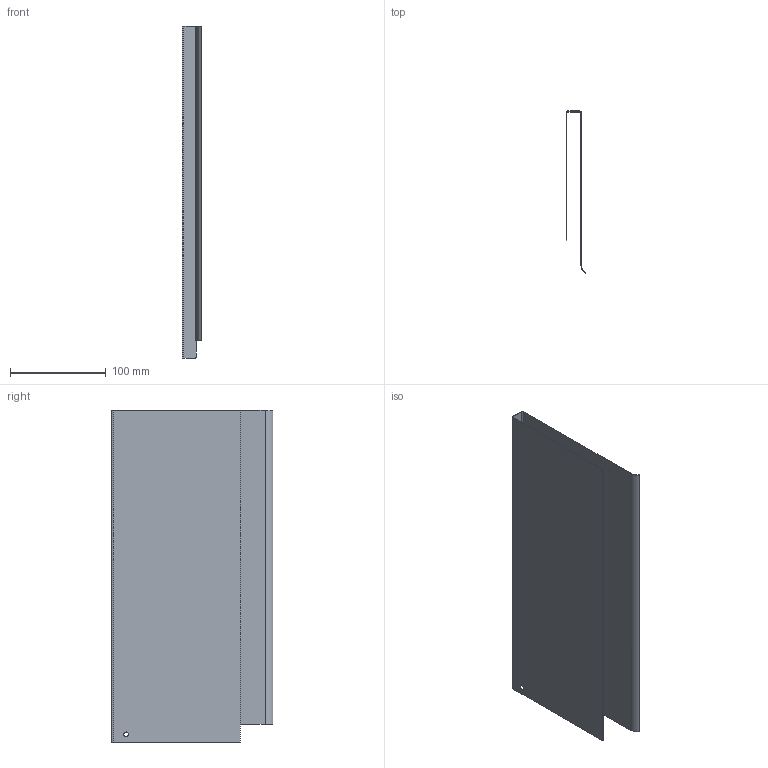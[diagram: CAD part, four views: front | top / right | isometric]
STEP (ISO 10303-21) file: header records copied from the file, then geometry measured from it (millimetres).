
FILE_DESCRIPTION (( 'STEP AP203' ), '1' );
FILE_NAME ('Nova Pro Duowing H186 HRW Classic links_NL350.step', '2014-02-14T12:04:03', ( 'test' ), ( '' ), 'SwSTEP 2.0', 'SolidWorks 2013', '' );
FILE_SCHEMA (( 'CONFIG_CONTROL_DESIGN' ));
Length unit declared in the file: millimetre
Products named in the file (1): Nova Pro Duowing H186 HRW Classic links_NL350
Bounding box: 20.72 x 169 x 347.5 mm (x, y, z)
Volume: 53878.9 mm3; surface area: 216190.1 mm2
Topology: 1 solids, 1 shells, 29 faces, 66 edges, 39 vertices
Faces by surface type: plane 20, cylinder 9
Entity records: 880 total; most frequent: DIRECTION 145, CARTESIAN_POINT 135, ORIENTED_EDGE 132, EDGE_CURVE 66, AXIS2_PLACEMENT_3D 49, LINE 47, VECTOR 47, VERTEX_POINT 39
